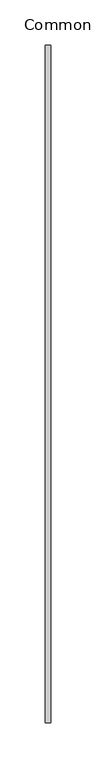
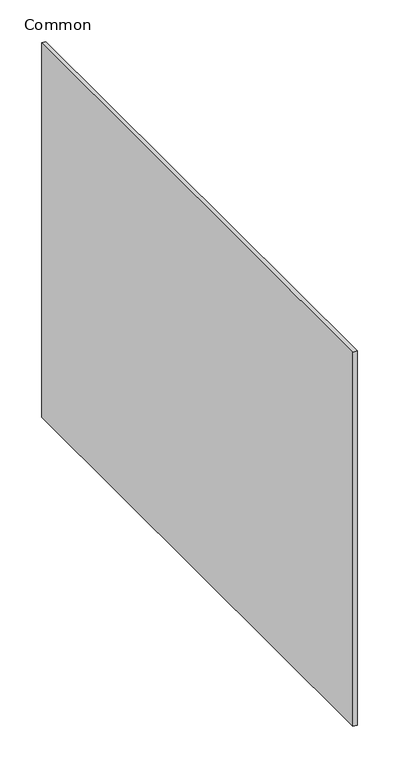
"""IFC4 building model written with IfcOpenShell, lengths in millimetres: duct fitting geometry, 071_角型ユニオン : Common."""

from ifc_helpers import new_model, si_unit, frame, origin, place, context, project, spatial, polyline, outline, extrude, source, transform, mapped, element, save


def common_bf29508c(model_context):
    return source(origin(), model_context, "Body", "SweptSolid", [
        extrude(outline(polyline([(3.0, 375.0), (3.0, -375.0), (-3.0, -375.0), (-3.0, 375.0), (3.0, 375.0)])), frame((0.0, 0.0, -275.0), z_axis=(0.0, 0.0, 1.0), x_axis=(1.0, 0.0, 0.0)), (0.0, 0.0, 1.0), 550.0),
    ])


if __name__ == "__main__":
    model = new_model("IFC4")
    model_context = context("Model", 3, world=origin())
    ifc_project = project(units=[si_unit("LENGTHUNIT", "METRE", prefix="MILLI")], contexts=[model_context])
    site = spatial("IfcSite", under=ifc_project)
    building = spatial("IfcBuilding", under=site)
    placement = place(None, origin())
    common_shape = common_bf29508c(model_context)
    element("IfcDuctFitting", 1, ObjectType="071_角型ユニオン : Common", at=placement, inside=building, context=model_context, shape_type="MappedRepresentation", body=[
        mapped(common_shape, transform((0.0, 0.0, 0.0), x_axis=(1.0, 0.0, 0.0), y_axis=(0.0, 1.0, 0.0), z_axis=(0.0, 0.0, 1.0))),
    ])
    save(model, "model.ifc")
